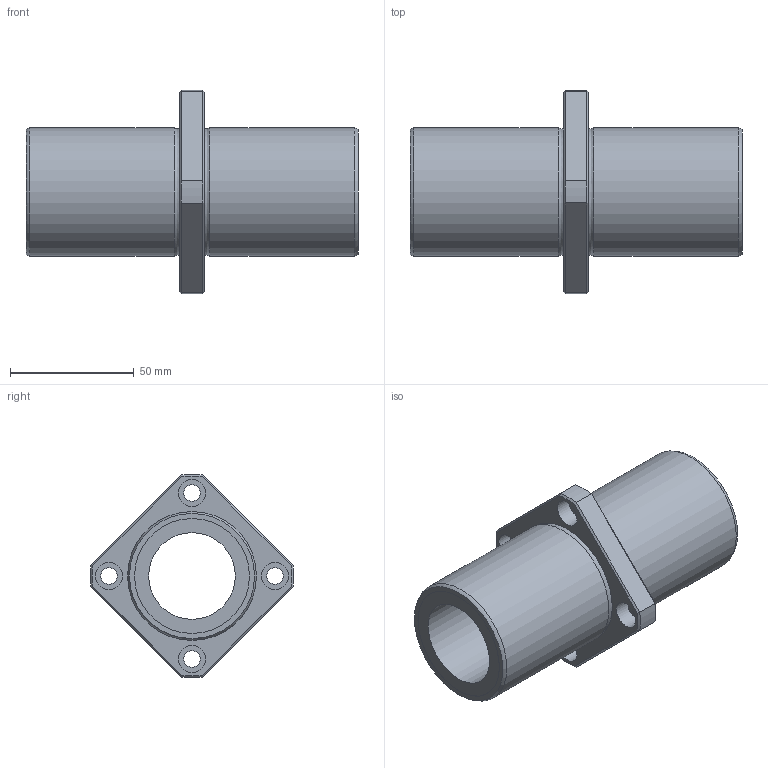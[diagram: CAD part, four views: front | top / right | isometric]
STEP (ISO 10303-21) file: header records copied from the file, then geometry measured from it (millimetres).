
FILE_DESCRIPTION((''),'2;1');
FILE_NAME('D:\製品 (図面)\カタログ用3D\リニアベアリング関連\STEP形式\LFDKC\LFDKC35.stp','2010-06-03T09:39:05',('Tsuchiya'),(''),'Autodesk Inventor 10','Autodesk Inventor 10','');
FILE_SCHEMA(('AUTOMOTIVE_DESIGN { 1 0 10303 214 1 1 1 1 }'));
Length unit declared in the file: millimetre
Products named in the file (1): LFDKC35
Bounding box: 134 x 81.94 x 81.94 mm (x, y, z)
Volume: 170987.5 mm3; surface area: 44189.3 mm2
Topology: 1 solids, 1 shells, 51 faces, 103 edges, 62 vertices
Faces by surface type: plane 22, cylinder 17, cone 8, torus 2, bspline 2
Full cylindrical faces by diameter (mm): 6.6 x4, 11 x4, 35 x1, 46.4 x2, 52 x2
Entity records: 1413 total; most frequent: CARTESIAN_POINT 372, DIRECTION 216, ORIENTED_EDGE 172, AXIS2_PLACEMENT_3D 96, EDGE_CURVE 86, EDGE_LOOP 86, VERTEX_POINT 62, FACE_OUTER_BOUND 51
